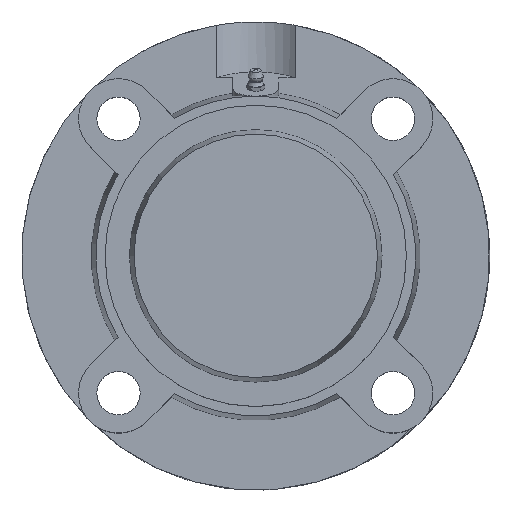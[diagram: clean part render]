
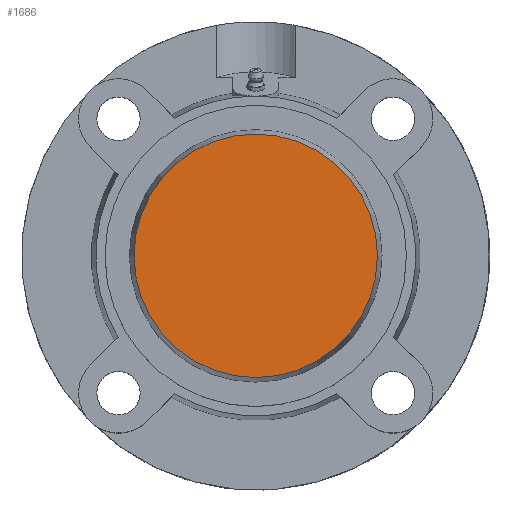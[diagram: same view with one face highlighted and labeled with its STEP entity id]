
A CAD part, top view. The second image highlights one B-rep face of the part: STEP entity #1686.
In plain terms, the highlighted planar face has unit normal (0, 0, 1).
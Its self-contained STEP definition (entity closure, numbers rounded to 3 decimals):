
#1670=CARTESIAN_POINT('',(0.0,26.651,36.));
#1671=DIRECTION('',(0.0,0.0,1.0));
#1672=DIRECTION('',(1.0,0.0,0.0));
#1673=AXIS2_PLACEMENT_3D('',#1670,#1671,#1672);
#1674=PLANE('',#1673);
#1675=CARTESIAN_POINT('',(0.0,53.302,36.));
#1676=VERTEX_POINT('',#1675);
#1677=CARTESIAN_POINT('',(0.0,0.,36.0));
#1678=DIRECTION('',(0.0,0.0,-1.0));
#1679=DIRECTION('',(0.0,1.0,0.0));
#1680=AXIS2_PLACEMENT_3D('',#1677,#1678,#1679);
#1681=CIRCLE('',#1680,53.302);
#1682=EDGE_CURVE('',#1676,#1676,#1681,.T.);
#1683=ORIENTED_EDGE('',*,*,#1682,.F.);
#1684=EDGE_LOOP('',(#1683));
#1685=FACE_OUTER_BOUND('',#1684,.T.);
#1686=ADVANCED_FACE('',(#1685),#1674,.T.);
